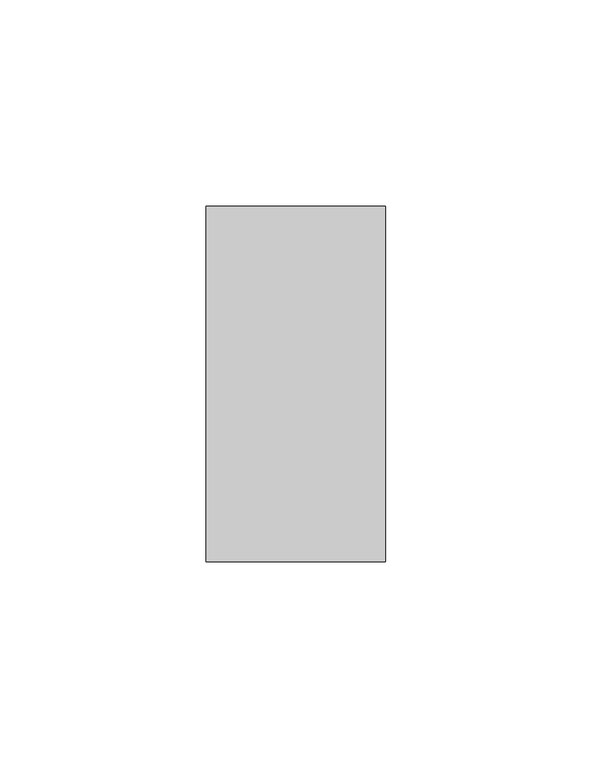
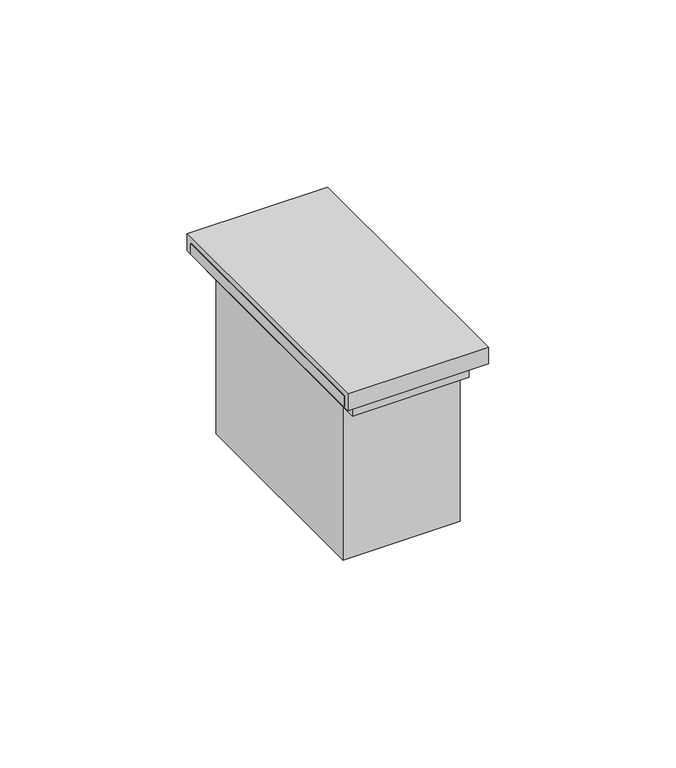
"""IFC4 building model written with IfcOpenShell, lengths in millimetres: proxy geometry, BT_LN-PulsanteTarga : Pulsante targa 3A - Art. K4040 - 2M."""

from ifc_helpers import new_model, si_unit, frame, origin, origin_with_axes, place, context, project, spatial, polyline, outline, extrude, source, transform, mapped, element, save


def electrical_fixtures_858ea2d2(model_context):
    return source(origin(), model_context, "Body", "SweptSolid", [
        extrude(outline(polyline([(21.7, 41.0), (21.7, -41.0), (-21.7, -41.0), (-21.7, 41.0), (21.7, 41.0)])), frame((0.0, 0.0, 55.5), z_axis=(0.0, 0.0, 1.0), x_axis=(1.0, 0.0, 0.0)), (0.0, 0.0, 1.0), 3.5),
        extrude(outline(polyline([(43.0, 61.0), (43.0, 55.5), (41.0, 55.5), (41.0, 59.0), (-41.0, 59.0), (-41.0, 55.5), (-43.0, 55.5), (-43.0, 61.0), (43.0, 61.0)])), frame((-21.7, 0.0, 0.0), z_axis=(1.0, 0.0, 0.0), x_axis=(0.0, 1.0, 0.0)), (0.0, 0.0, 1.0), 43.4),
        extrude(outline(polyline([(-18.0, 39.0), (18.0, 39.0), (18.0, -39.0), (-18.0, -39.0), (-18.0, 39.0)])), frame((0.0, 0.0, 50.0), z_axis=(0.0, 0.0, 1.0), x_axis=(1.0, 0.0, 0.0)), (0.0, 0.0, 1.0), 5.5),
        extrude(outline(polyline([(-18.0, 34.0), (18.0, 34.0), (18.0, -34.0), (-18.0, -34.0), (-18.0, 34.0)])), origin_with_axes(), (0.0, 0.0, 1.0), 50.0),
    ])


if __name__ == "__main__":
    model = new_model("IFC4")
    model_context = context("Model", 3, world=origin())
    ifc_project = project(units=[si_unit("LENGTHUNIT", "METRE", prefix="MILLI")], contexts=[model_context])
    site = spatial("IfcSite", under=ifc_project)
    building = spatial("IfcBuilding", under=site)
    placement = place(None, origin())
    electrical_fixtures_shape = electrical_fixtures_858ea2d2(model_context)
    element("IfcBuildingElementProxy", 1, Name="BT_LN-PulsanteTarga : Pulsante targa 3A - Art. K4040 - 2M", ObjectType="BT_LN-PulsanteTarga : Pulsante targa 3A - Art. K4040 - 2M", at=placement, inside=building, context=model_context, shape_type="MappedRepresentation", body=[
        mapped(electrical_fixtures_shape, transform((0.0, 0.0, 0.0), x_axis=(1.0, 0.0, 0.0), y_axis=(0.0, 1.0, 0.0), z_axis=(0.0, 0.0, 1.0))),
    ])
    save(model, "model.ifc")
